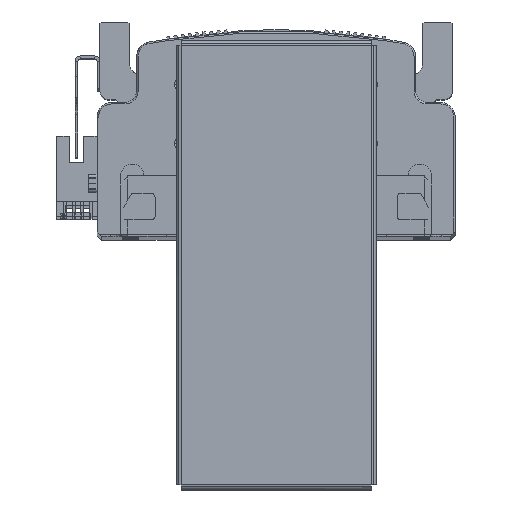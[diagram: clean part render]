
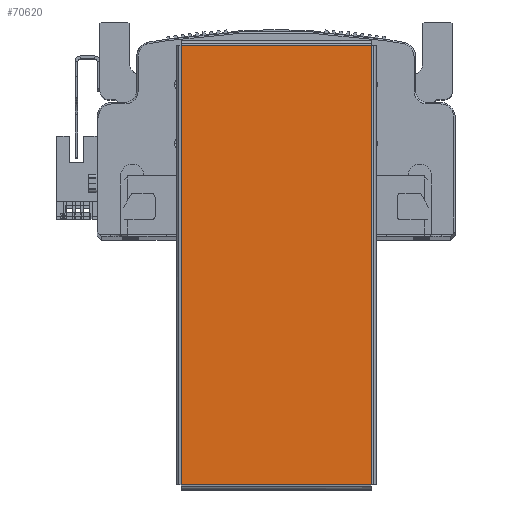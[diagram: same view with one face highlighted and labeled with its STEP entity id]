
A CAD part, top view. The second image highlights one B-rep face of the part: STEP entity #70620.
In plain terms, the highlighted planar face has unit normal (0, 0, 1) as drawn and (0, 0, -1) by its records, which use the part's own axes.
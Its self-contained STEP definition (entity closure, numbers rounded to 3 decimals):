
#6150 = DIRECTION ( 'NONE',  ( 0., 0., 1. ) ) ;
#6184 = DIRECTION ( 'NONE',  ( 1., 0., 0. ) ) ;
#6190 = PLANE ( 'NONE',  #37336 ) ;
#6219 = CARTESIAN_POINT ( 'NONE',  ( 0., 0., -1. ) ) ;
#8446 = FACE_OUTER_BOUND ( 'NONE', #64147, .T. ) ;
#16223 = CARTESIAN_POINT ( 'NONE',  ( -74.763, -32.363, -1. ) ) ;
#16276 = CARTESIAN_POINT ( 'NONE',  ( 74.763, 32.363, -1. ) ) ;
#18452 = CARTESIAN_POINT ( 'NONE',  ( -74.763, 32.363, -1. ) ) ;
#18514 = CARTESIAN_POINT ( 'NONE',  ( 74.763, -32.363, -1. ) ) ;
#35986 = ORIENTED_EDGE ( 'NONE', *, *, #61346, .T. ) ;
#35998 = ORIENTED_EDGE ( 'NONE', *, *, #61366, .T. ) ;
#36048 = ORIENTED_EDGE ( 'NONE', *, *, #61324, .T. ) ;
#36074 = ORIENTED_EDGE ( 'NONE', *, *, #61343, .T. ) ;
#37336 = AXIS2_PLACEMENT_3D ( 'NONE', #6219, #6150, #6184 ) ;
#39913 = LINE ( 'NONE', #43311, #39937 ) ;
#39921 = LINE ( 'NONE', #43230, #39953 ) ;
#39937 = VECTOR ( 'NONE', #43210, 1000. ) ;
#39953 = VECTOR ( 'NONE', #43207, 1000. ) ;
#39955 = VECTOR ( 'NONE', #43044, 1000. ) ;
#39967 = LINE ( 'NONE', #42950, #39955 ) ;
#40018 = LINE ( 'NONE', #43505, #40020 ) ;
#40020 = VECTOR ( 'NONE', #43630, 1000. ) ;
#42950 = CARTESIAN_POINT ( 'NONE',  ( -74.763, -32.393, -1. ) ) ;
#43044 = DIRECTION ( 'NONE',  ( 0., 1., 0. ) ) ;
#43207 = DIRECTION ( 'NONE',  ( -1., 0., 0. ) ) ;
#43210 = DIRECTION ( 'NONE',  ( 1., 0., 0. ) ) ;
#43230 = CARTESIAN_POINT ( 'NONE',  ( 74.793, -32.363, -1. ) ) ;
#43311 = CARTESIAN_POINT ( 'NONE',  ( -74.793, 32.363, -1. ) ) ;
#43505 = CARTESIAN_POINT ( 'NONE',  ( 74.763, 32.393, -1. ) ) ;
#43630 = DIRECTION ( 'NONE',  ( 0., -1., 0. ) ) ;
#51331 = VERTEX_POINT ( 'NONE', #18452 ) ;
#51344 = VERTEX_POINT ( 'NONE', #18514 ) ;
#51369 = VERTEX_POINT ( 'NONE', #16223 ) ;
#51393 = VERTEX_POINT ( 'NONE', #16276 ) ;
#61324 = EDGE_CURVE ( 'NONE', #51369, #51331, #39967, .T. ) ;
#61343 = EDGE_CURVE ( 'NONE', #51331, #51393, #39913, .T. ) ;
#61346 = EDGE_CURVE ( 'NONE', #51344, #51369, #39921, .T. ) ;
#61366 = EDGE_CURVE ( 'NONE', #51393, #51344, #40018, .T. ) ;
#64147 = EDGE_LOOP ( 'NONE', ( #35998, #35986, #36048, #36074 ) ) ;
#70620 = ADVANCED_FACE ( 'NONE', ( #8446 ), #6190, .F. ) ;
